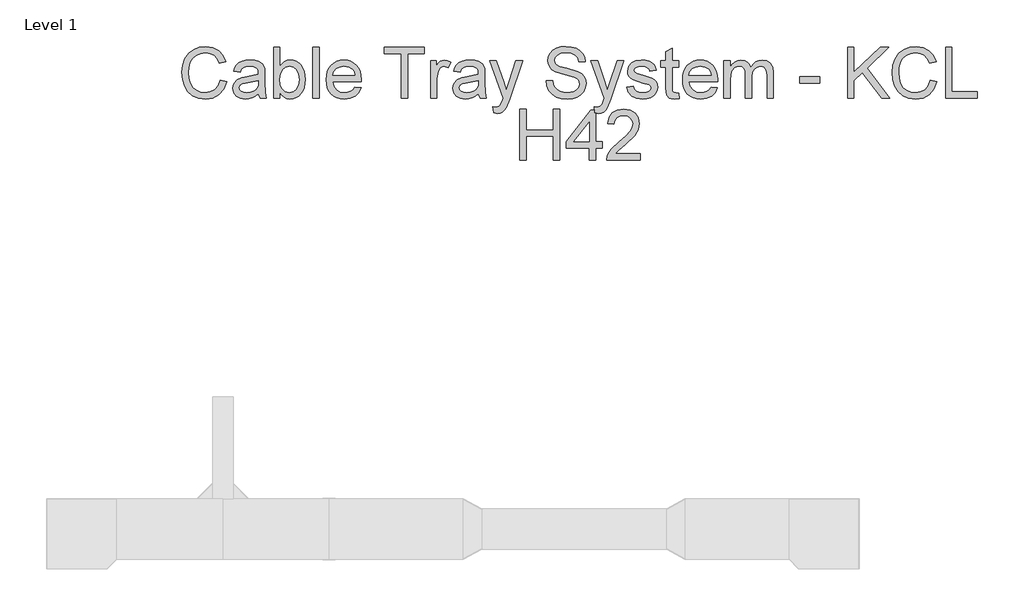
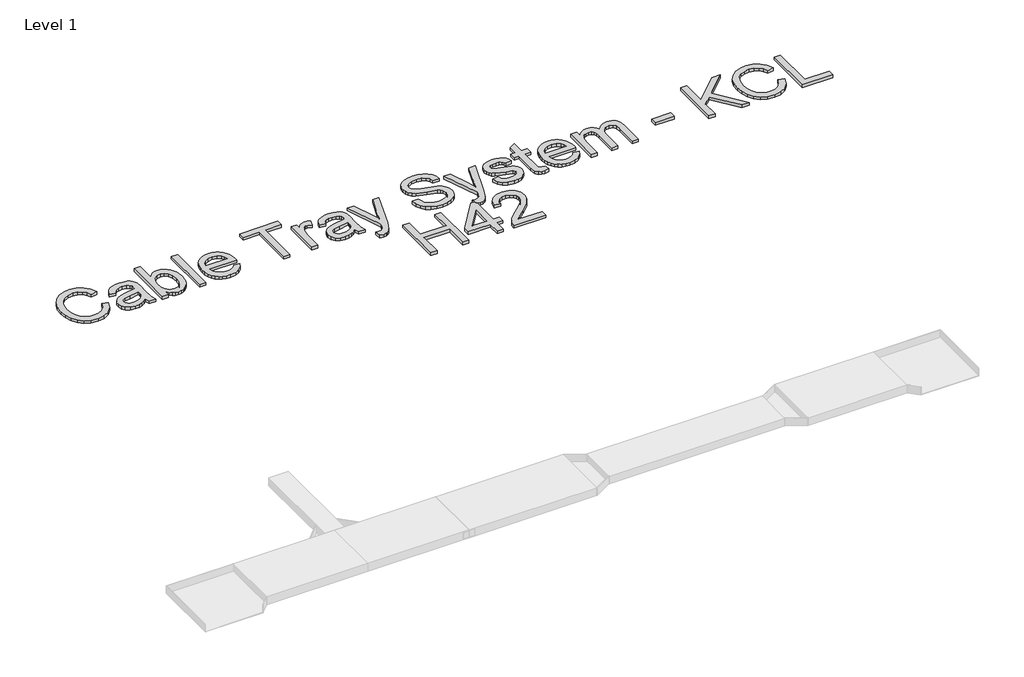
# One storey, part 10 of 32: 1 proxy.
"""IFC4 building model written with IfcOpenShell, lengths in millimetres."""

import ifcopenshell
import ifcopenshell.guid

model = None  # the IFC model being written
_history = None  # IfcOwnerHistory: only IFC2X3 demands one
_inside = {}  # id of a spatial element -> (the spatial element, [elements in it])
_under = {}  # id of a project, library or spatial element -> (it, [spatial elements below it])
_declared = {}  # id of a project -> (the project, [libraries it declares])
_typed = {}  # id of a type object -> (the type object, [elements of that type])
_made_of = {}  # id of a material, layer set ... -> (it, [elements and type objects made of it])


def new_model(schema):
    """Start an empty IFC model of exactly this schema.

    Asked for "IFC4X3", IfcOpenShell would pick the latest addendum, in which some entities
    have other attributes; the version numbers below select the first issue.
    IFC2X3 requires an IfcOwnerHistory on every rooted entity: one is made here for all.
    """
    global model, _history
    if schema == "IFC4X3":
        model = ifcopenshell.file(schema_version=(4, 3, 0, 0))
    else:
        model = ifcopenshell.file(schema=schema)
    _inside.clear()
    _under.clear()
    _declared.clear()
    _typed.clear()
    _made_of.clear()
    _history = None
    if model.schema == "IFC2X3":
        org = make("IfcOrganization", Name="unknown")
        user = make(
            "IfcPersonAndOrganization",
            ThePerson=make("IfcPerson", FamilyName="unknown"),
            TheOrganization=org,
        )
        app = make(
            "IfcApplication",
            ApplicationDeveloper=org,
            Version="unknown",
            ApplicationFullName="unknown",
            ApplicationIdentifier="unknown",
        )
        _history = make(
            "IfcOwnerHistory",
            OwningUser=user,
            OwningApplication=app,
            ChangeAction="ADDED",
            CreationDate=0,
        )
    return model


def make(cls, **values):
    """One entity of the class cls with the attributes given. An attribute that is None is left unset."""
    return model.create_entity(
        cls, **{name: value for name, value in values.items() if value is not None}
    )


def rooted(cls, **values):
    """An entity with a GlobalId (a new one), such as an element, a storey or a relation."""
    return make(cls, GlobalId=ifcopenshell.guid.new(), OwnerHistory=_history, **values)


def si_unit(unit_type, name, prefix=None):
    """IfcSIUnit, for example si_unit("LENGTHUNIT", "METRE", prefix="MILLI")."""
    return make("IfcSIUnit", UnitType=unit_type, Prefix=prefix, Name=name)


def assignment(units):
    """IfcUnitAssignment: the units of a project."""
    return None if units is None else make("IfcUnitAssignment", Units=units)


def point(xyz):
    """IfcCartesianPoint."""
    return None if xyz is None else make("IfcCartesianPoint", Coordinates=xyz)


def direction(xyz):
    """IfcDirection."""
    return None if xyz is None else make("IfcDirection", DirectionRatios=xyz)


def frame(location, z_axis=None, x_axis=None):
    """IfcAxis2Placement3D, a coordinate frame: its origin and axes. An axis left out is left unset."""
    return make(
        "IfcAxis2Placement3D",
        Location=point(location),
        Axis=direction(z_axis),
        RefDirection=direction(x_axis),
    )


def origin():
    """The frame at (0, 0, 0) with its axes left unset."""
    return frame((0.0, 0.0, 0.0))


def origin_with_axes():
    """The frame at (0, 0, 0) with the z axis (0, 0, 1) and the x axis (1, 0, 0) written out."""
    return frame((0.0, 0.0, 0.0), z_axis=(0.0, 0.0, 1.0), x_axis=(1.0, 0.0, 0.0))


def place(relative_to, where):
    """IfcLocalPlacement: puts the frame where relative to a parent placement (None: the world)."""
    return make(
        "IfcLocalPlacement", PlacementRelTo=relative_to, RelativePlacement=where
    )


def context(
    kind, dimensions, precision=None, world=None, true_north=None, identifier=None
):
    """IfcGeometricRepresentationContext, for example the 3D "Model" context."""
    return make(
        "IfcGeometricRepresentationContext",
        ContextIdentifier=identifier,
        ContextType=kind,
        CoordinateSpaceDimension=dimensions,
        Precision=precision,
        WorldCoordinateSystem=world,
        TrueNorth=true_north,
    )


def project(units=None, contexts=None):
    """IfcProject with its units and contexts."""
    return rooted(
        "IfcProject",
        Name="project",
        RepresentationContexts=contexts,
        UnitsInContext=assignment(units),
    )


def spatial(cls, under=None, at=None, **own):
    """A site, building, storey or space (cls), placed at a placement, below another one or the project."""
    s = rooted(cls, ObjectPlacement=at, **own)
    if under is not None:
        _under.setdefault(under.id(), (under, []))[1].append(s)
    return s


def polyline(points):
    """IfcPolyline through the points."""
    return make("IfcPolyline", Points=[point(p) for p in points])


def outline(outer, holes=None, kind="AREA"):
    """IfcArbitraryClosedProfileDef: a profile drawn as a closed curve; with holes, ...WithVoids."""
    if holes is None:
        return make("IfcArbitraryClosedProfileDef", ProfileType=kind, OuterCurve=outer)
    return make(
        "IfcArbitraryProfileDefWithVoids",
        ProfileType=kind,
        OuterCurve=outer,
        InnerCurves=holes,
    )


def extrude(swept, where, along, depth):
    """IfcExtrudedAreaSolid: the profile swept, set in the frame where, extruded along a direction by depth."""
    return make(
        "IfcExtrudedAreaSolid",
        SweptArea=swept,
        Position=where,
        ExtrudedDirection=direction(along),
        Depth=depth,
    )


def shape(context_of_items, identifier, shape_type, items):
    """IfcShapeRepresentation: the items that make up one representation, for example the "Body"."""
    return make(
        "IfcShapeRepresentation",
        ContextOfItems=context_of_items,
        RepresentationIdentifier=identifier,
        RepresentationType=shape_type,
        Items=items,
    )


def made_of(thing, what):
    """Note that an element or type object is made of a material, layer set ...; save() writes the relation."""
    if what is not None:
        _made_of.setdefault(what.id(), (what, []))[1].append(thing)
    return thing


def element(
    cls,
    number,
    at=None,
    inside=None,
    cuts=None,
    type_object=None,
    material=None,
    context=None,
    identifier="Body",
    shape_type=None,
    held_by="IfcProductDefinitionShape",
    body=None,
    shapes=None,
    **own,
):
    """One element of the class cls, such as IfcWall. Its Tag is "e" and its number.

    at: its placement. inside: the storey or other place that contains it. cuts: it is an
    opening in that element (IfcRelVoidsElement). A single representation is given by context,
    identifier, shape_type and body (its items); several are given by shapes. held_by: the class
    of the entity that holds the representations. save() writes the other relations.
    """
    e = rooted(cls, Tag="e%d" % number, ObjectPlacement=at, **own)
    if body is not None:
        shapes = [shape(context, identifier, shape_type, body)]
    if shapes is not None:
        e.Representation = make(held_by, Representations=shapes)
    if inside is not None:
        _inside.setdefault(inside.id(), (inside, []))[1].append(e)
    if cuts is not None:
        rooted(
            "IfcRelVoidsElement", RelatingBuildingElement=cuts, RelatedOpeningElement=e
        )
    if type_object is not None:
        _typed.setdefault(type_object.id(), (type_object, []))[1].append(e)
    return made_of(e, material)


def aggregate(whole, parts):
    """IfcRelAggregates: a whole, such as a stair, and the parts it consists of."""
    return rooted("IfcRelAggregates", RelatingObject=whole, RelatedObjects=parts)


def save(model, path):
    """Write the relations noted so far, then the file.

    IfcRelAggregates (storeys below a building ...), IfcRelContainedInSpatialStructure (elements
    in a storey), IfcRelDefinesByType, IfcRelAssociatesMaterial and IfcRelDeclares: one each for
    every whole, place, type object, material and project.
    """
    for whole, parts in _under.values():
        aggregate(whole, parts)
    for where, things in _inside.values():
        rooted(
            "IfcRelContainedInSpatialStructure",
            RelatedElements=things,
            RelatingStructure=where,
        )
    for kind, things in _typed.values():
        rooted("IfcRelDefinesByType", RelatedObjects=things, RelatingType=kind)
    for what, things in _made_of.values():
        rooted("IfcRelAssociatesMaterial", RelatedObjects=things, RelatingMaterial=what)
    for by, libraries in _declared.values():
        rooted("IfcRelDeclares", RelatingContext=by, RelatedDefinitions=libraries)
    model.write(path)


model = new_model("IFC4")

# Units and contexts
model_context = context("Model", 3, world=origin())
ifc_project = project(units=[si_unit("LENGTHUNIT", "METRE", prefix="MILLI")], contexts=[model_context])

# Site, building, storey
site = spatial("IfcSite", under=ifc_project)
building = spatial("IfcBuilding", under=site)
storey = spatial("IfcBuildingStorey", under=building, Name="Level 1", Elevation=0.0)

# Proxy
placement = place(None, origin())
element("IfcBuildingElementProxy", 1, Name="250mm Arial 3", ObjectType="250mm Arial 3", at=placement, inside=storey, context=model_context, shape_type="SweptSolid", body=[
    extrude(outline(polyline([(-19338.409324, 48792.4106539), (-19307.0167271, 48784.31725), (-19321.5020807, 48747.7359841), (-19344.2341223, 48721.01089), (-19374.0938776, 48704.6631338), (-19409.9623721, 48699.2138818), (-19446.3750254, 48703.3372258), (-19475.2920831, 48715.7072579), (-19497.4569733, 48735.8947824), (-19513.6131242, 48763.4706036), (-19523.4769602, 48795.8902044), (-19526.7649056, 48830.6090677), (-19523.0477646, 48867.2286547), (-19511.8963416, 48898.8511778), (-19493.8931165, 48924.472626), (-19469.620569, 48943.0889878), (-19440.8338029, 48954.4243517), (-19409.2879218, 48958.2028064), (-19374.8679626, 48953.3130415), (-19346.4107574, 48938.643747), (-19324.8053544, 48915.0992993), (-19310.9408017, 48883.584075), (-19342.3333987, 48876.1038078), (-19353.2165744, 48898.9967978), (-19368.0851383, 48914.7007605), (-19387.1230316, 48923.7828472), (-19410.5141951, 48926.8102095), (-19437.4768797, 48923.4532863), (-19459.6264415, 48913.3825166), (-19476.4340501, 48897.6555613), (-19487.3708753, 48877.3300811), (-19493.3719503, 48854.3527848), (-19495.3723087, 48830.6703814), (-19493.0040683, 48801.6690174), (-19485.8993473, 48776.5917281), (-19473.7898983, 48756.3965394), (-19456.407474, 48742.0414774), (-19435.5684918, 48733.4652284), (-19413.0893691, 48730.6064787), (-19386.8854411, 48734.4998965), (-19365.0501119, 48746.1801498), (-19348.5644, 48765.5246114), (-19338.409324, 48792.4106539)])), origin_with_axes(), (0.0, 0.0, 1.0), 15.0),
    extrude(outline(polyline([(-19150.0537425, 48726.6824041), (-19165.052598, 48713.8218627), (-19180.4959776, 48705.406562), (-19196.7364349, 48700.7620518), (-19214.1265233, 48699.2138818), (-19240.3611081, 48702.938687), (-19259.7132339, 48714.1131026), (-19271.6464061, 48731.0816596), (-19275.6241302, 48752.1888891), (-19274.1219454, 48765.2027147), (-19269.6153909, 48777.0209238), (-19253.827122, 48795.0471415), (-19231.8461728, 48805.3478374), (-19204.6842188, 48810.0689897), (-19150.2376835, 48820.8601949), (-19150.0537425, 48827.8499528), (-19152.2150492, 48841.8601254), (-19158.6989694, 48851.0265185), (-19173.1996514, 48857.8323354), (-19193.4025043, 48860.100941), (-19212.1031724, 48858.591092), (-19225.1629832, 48854.0615449), (-19234.0687932, 48845.6845653), (-19240.3074587, 48832.6324187), (-19271.7000556, 48836.5564933), (-19266.2508035, 48853.7243198), (-19258.1190786, 48867.2133262), (-19246.5461242, 48877.5293505), (-19230.7731836, 48885.1782303), (-19211.4823715, 48889.914711), (-19189.3558023, 48891.4935379), (-19168.1336097, 48890.098652), (-19151.3106727, 48885.9139943), (-19138.626408, 48879.6216794), (-19129.8202328, 48871.9038217), (-19120.1939872, 48850.5973228), (-19118.6611456, 48823.1288005), (-19118.6611456, 48784.0719953), (-19117.0669903, 48729.5334895), (-19110.8129964, 48703.1379564), (-19142.2055933, 48703.1379564), (-19150.0537425, 48726.6824041)]), holes=[polyline([(-19150.0537425, 48789.4675979), (-19200.6988305, 48779.8413524), (-19227.7075003, 48774.7523181), (-19239.9395767, 48766.4749732), (-19244.2315333, 48754.3961811), (-19241.8939498, 48745.0611754), (-19234.8811992, 48737.4122956), (-19223.3465658, 48732.3079329), (-19207.4433338, 48730.6064787), (-19190.5820756, 48732.4842097), (-19175.6828548, 48738.1174028), (-19163.6040627, 48746.4177403), (-19155.2040904, 48756.2969047), (-19151.4792852, 48766.4749732), (-19150.2376835, 48780.5771164), (-19150.0537425, 48789.4675979)])]), origin_with_axes(), (0.0, 0.0, 1.0), 15.0),
    extrude(outline(polyline([(-19044.1037279, 48703.1379564), (-19075.4963248, 48703.1379564), (-19075.4963248, 48954.2787318), (-19044.1037279, 48954.2787318), (-19044.1037279, 48861.1432733), (-19033.7800394, 48874.4215141), (-19022.1227787, 48883.9059718), (-19009.1319457, 48889.5966464), (-18994.8075405, 48891.4935379), (-18978.6360612, 48889.7844195), (-18963.35363, 48884.6570642), (-18949.8339666, 48876.4333687), (-18938.9507909, 48865.4352299), (-18923.9595996, 48835.5448178), (-18918.5333402, 48798.1128248), (-18924.1512049, 48756.2049342), (-18931.1735356, 48739.2746982), (-18941.0047988, 48725.0269351), (-18952.8057634, 48713.7337243), (-18965.7371987, 48705.6671451), (-18979.7991048, 48700.8271976), (-18994.9914815, 48699.2138818), (-19009.7872355, 48701.2947143), (-19022.9045279, 48707.5372119), (-19034.3433587, 48717.9413746), (-19044.1037279, 48732.5072023), (-19044.1037279, 48703.1379564)]), holes=[polyline([(-19044.1037279, 48796.6412968), (-19041.9577496, 48770.4603615), (-19035.5198147, 48752.7407121), (-19019.0724238, 48736.140037), (-18997.6892828, 48730.6064787), (-18979.5710946, 48734.6838375), (-18964.089394, 48746.9159138), (-18953.4668013, 48767.2260656), (-18949.9259371, 48795.5376509), (-18953.3211814, 48824.2631033), (-18963.5069141, 48844.3433289), (-18978.5057696, 48856.161538), (-18996.3403822, 48860.100941), (-19014.4585705, 48856.0235822), (-19029.9402711, 48843.7915059), (-19040.5628637, 48823.8492361), (-19044.1037279, 48796.6412968)])]), origin_with_axes(), (0.0, 0.0, 1.0), 15.0),
    extrude(outline(polyline([(-18883.2166687, 48703.1379564), (-18883.2166687, 48954.2787318), (-18851.8240718, 48954.2787318), (-18851.8240718, 48703.1379564), (-18883.2166687, 48703.1379564)])), origin_with_axes(), (0.0, 0.0, 1.0), 15.0),
    extrude(outline(polyline([(-18675.6085961, 48758.075001), (-18644.8291358, 48754.1509264), (-18655.9192451, 48730.9590323), (-18673.6159019, 48713.6225933), (-18697.5205674, 48702.8160597), (-18727.2347027, 48699.2138818), (-18746.7132879, 48700.7678), (-18764.0688875, 48705.4295547), (-18779.3015014, 48713.1991458), (-18792.4111295, 48724.0765733), (-18802.953248, 48737.759101), (-18810.4833325, 48753.9439928), (-18815.0013833, 48772.6312485), (-18816.5074002, 48793.8208682), (-18814.9860549, 48815.7290074), (-18810.4220189, 48835.0389801), (-18802.8152922, 48851.7507861), (-18792.1658749, 48865.8644256), (-18779.0907356, 48877.0771622), (-18764.2068432, 48885.0862598), (-18747.5141977, 48889.8917184), (-18729.012799, 48891.4935379), (-18711.1072926, 48889.8955505), (-18694.9147366, 48885.1015883), (-18680.4351312, 48877.1116512), (-18667.6684763, 48865.9257393), (-18657.2470692, 48851.8427566), (-18649.8032069, 48835.1616074), (-18645.3368896, 48815.8822916), (-18643.8481172, 48794.0048092), (-18644.0320581, 48785.5435233), (-18785.1148033, 48785.5435233), (-18779.6808797, 48762.0450609), (-18767.0579287, 48744.7699355), (-18748.8401057, 48734.1473429), (-18726.6215661, 48730.6064787), (-18709.9135921, 48732.2466193), (-18695.8421058, 48737.1670409), (-18684.4071071, 48745.6743121), (-18675.6085961, 48758.075001)]), holes=[polyline([(-18785.1148033, 48816.9361202), (-18675.2407141, 48816.9361202), (-18679.4866854, 48833.5214669), (-18687.8100156, 48845.3856612), (-18706.1121448, 48856.4221211), (-18729.1354264, 48860.100941), (-18750.2963053, 48857.1655493), (-18767.7936927, 48848.359374), (-18779.9567912, 48834.632777), (-18785.1148033, 48816.9361202)])]), origin_with_axes(), (0.0, 0.0, 1.0), 15.0),
    extrude(outline(polyline([(-18447.6443864, 48703.1379564), (-18447.6443864, 48922.8861348), (-18530.0499533, 48922.8861348), (-18530.0499533, 48954.2787318), (-18333.8462225, 48954.2787318), (-18333.8462225, 48922.8861348), (-18416.2517895, 48922.8861348), (-18416.2517895, 48703.1379564), (-18447.6443864, 48703.1379564)])), origin_with_axes(), (0.0, 0.0, 1.0), 15.0),
    extrude(outline(polyline([(-18302.4536256, 48703.1379564), (-18302.4536256, 48887.5694633), (-18274.9851033, 48887.5694633), (-18274.9851033, 48860.284882), (-18264.8376916, 48876.1038078), (-18255.4873576, 48885.423485), (-18235.8669845, 48891.4935379), (-18220.2319997, 48889.0716481), (-18204.3517602, 48881.8059787), (-18214.8363971, 48853.6630061), (-18236.9093168, 48860.100941), (-18246.2826435, 48858.5527709), (-18254.6596231, 48853.9082608), (-18265.9719944, 48836.7404343), (-18271.0610287, 48800.0748621), (-18271.0610287, 48703.1379564), (-18302.4536256, 48703.1379564)])), origin_with_axes(), (0.0, 0.0, 1.0), 15.0),
    extrude(outline(polyline([(-18067.0091487, 48726.6824041), (-18082.0080042, 48713.8218627), (-18097.4513838, 48705.406562), (-18113.6918411, 48700.7620518), (-18131.0819295, 48699.2138818), (-18157.3165143, 48702.938687), (-18176.6686401, 48714.1131026), (-18188.6018123, 48731.0816596), (-18192.5795364, 48752.1888891), (-18191.0773516, 48765.2027147), (-18186.5707971, 48777.0209238), (-18170.7825282, 48795.0471415), (-18148.801579, 48805.3478374), (-18121.639625, 48810.0689897), (-18067.1930897, 48820.8601949), (-18067.0091487, 48827.8499528), (-18069.1704554, 48841.8601254), (-18075.6543756, 48851.0265185), (-18090.1550576, 48857.8323354), (-18110.3579105, 48860.100941), (-18129.0585786, 48858.591092), (-18142.1183894, 48854.0615449), (-18151.0241994, 48845.6845653), (-18157.2628649, 48832.6324187), (-18188.6554618, 48836.5564933), (-18183.2062097, 48853.7243198), (-18175.0744848, 48867.2133262), (-18163.5015304, 48877.5293505), (-18147.7285898, 48885.1782303), (-18128.4377777, 48889.914711), (-18106.3112085, 48891.4935379), (-18085.0890159, 48890.098652), (-18068.2660789, 48885.9139943), (-18055.5818142, 48879.6216794), (-18046.775639, 48871.9038217), (-18037.1493934, 48850.5973228), (-18035.6165518, 48823.1288005), (-18035.6165518, 48784.0719953), (-18034.0223965, 48729.5334895), (-18027.7684026, 48703.1379564), (-18059.1609995, 48703.1379564), (-18067.0091487, 48726.6824041)]), holes=[polyline([(-18067.0091487, 48789.4675979), (-18117.6542367, 48779.8413524), (-18144.6629065, 48774.7523181), (-18156.8949829, 48766.4749732), (-18161.1869395, 48754.3961811), (-18158.849356, 48745.0611754), (-18151.8366054, 48737.4122956), (-18140.301972, 48732.3079329), (-18124.39874, 48730.6064787), (-18107.5374818, 48732.4842097), (-18092.638261, 48738.1174028), (-18080.5594689, 48746.4177403), (-18072.1594966, 48756.2969047), (-18068.4346914, 48766.4749732), (-18067.1930897, 48780.5771164), (-18067.0091487, 48789.4675979)])]), origin_with_axes(), (0.0, 0.0, 1.0), 15.0),
    extrude(outline(polyline([(-17992.451731, 48632.5046133), (-17996.3758056, 48662.7322506), (-17980.4342525, 48659.9731356), (-17965.5350317, 48663.4373577), (-17956.3992955, 48673.0942601), (-17947.8153823, 48696.2095122), (-17945.3628356, 48703.8124067), (-18012.0721041, 48887.5694633), (-17978.9627245, 48887.5694633), (-17943.5847393, 48785.1756413), (-17931.2606925, 48744.2181125), (-17918.9366457, 48780.3931754), (-17882.5776418, 48887.5694633), (-17849.7135169, 48887.5694633), (-17913.9089251, 48698.7233725), (-17930.5862422, 48657.7658437), (-17939.1241701, 48644.6907044), (-17948.7964009, 48635.6316103), (-17960.0321302, 48630.3433066), (-17973.2605536, 48628.5805387), (-17992.451731, 48632.5046133)])), origin_with_axes(), (0.0, 0.0, 1.0), 15.0),
    extrude(outline(polyline([(-17733.4628064, 48789.4675979), (-17702.0702095, 48789.4675979), (-17698.4680316, 48772.0468526), (-17691.9534546, 48758.0443442), (-17681.7907145, 48746.9312422), (-17667.2440473, 48738.1787164), (-17649.4630842, 48732.4995381), (-17629.5974564, 48730.6064787), (-17612.1077333, 48732.0396856), (-17596.7946452, 48736.3393065), (-17584.3862921, 48743.1451234), (-17575.6107737, 48752.0969186), (-17570.3914478, 48762.3746218), (-17568.6516726, 48773.1581628), (-17573.8633342, 48792.7478791), (-17581.8034539, 48800.4963936), (-17595.2004899, 48807.0033064), (-17640.9098278, 48818.990128), (-17690.1140447, 48834.4718287), (-17705.7413652, 48845.0331076), (-17716.8161461, 48857.8323354), (-17723.4150294, 48872.5936004), (-17725.6146572, 48889.0409913), (-17722.8938633, 48907.4274268), (-17714.7314815, 48924.5722607), (-17701.3421097, 48939.1035995), (-17682.9403457, 48949.64955), (-17660.8520976, 48956.0644923), (-17636.4032734, 48958.2028064), (-17609.9157697, 48955.9648576), (-17586.739204, 48949.2510112), (-17567.7013108, 48938.1992229), (-17553.6298244, 48922.9474485), (-17544.7240145, 48904.4460498), (-17541.1831503, 48883.6453887), (-17572.5757472, 48883.6453887), (-17578.3392318, 48902.3767136), (-17590.3567103, 48915.8963769), (-17609.1340205, 48924.0817513), (-17635.177, 48926.8102095), (-17661.8331163, 48924.1124082), (-17680.1199171, 48916.0190043), (-17690.6965245, 48904.1088247), (-17694.2220603, 48889.9606963), (-17691.7235284, 48877.8972325), (-17684.2279327, 48868.1943449), (-17666.5082833, 48859.5184612), (-17632.9697081, 48850.6586365), (-17577.4195268, 48834.9010243), (-17559.5236006, 48823.5120109), (-17547.0386054, 48809.455853), (-17539.7039581, 48792.8858348), (-17537.2590757, 48773.9552405), (-17540.0718401, 48754.6031147), (-17548.5101333, 48736.4006201), (-17562.2290661, 48720.7349785), (-17580.8837489, 48708.9934115), (-17603.3168864, 48701.6587642), (-17628.3711831, 48699.2138818), (-17659.1276508, 48701.8503694), (-17684.4425306, 48709.7598323), (-17704.6070624, 48722.9729273), (-17719.9124863, 48741.5203112), (-17729.7380012, 48764.1143971), (-17733.4628064, 48789.4675979)])), origin_with_axes(), (0.0, 0.0, 1.0), 15.0),
    extrude(outline(polyline([(-17494.0942549, 48632.5046133), (-17498.0183295, 48662.7322506), (-17482.0767764, 48659.9731356), (-17467.1775556, 48663.4373577), (-17458.0418194, 48673.0942601), (-17449.4579061, 48696.2095122), (-17447.0053595, 48703.8124067), (-17513.714628, 48887.5694633), (-17480.6052484, 48887.5694633), (-17445.2272632, 48785.1756413), (-17432.9032164, 48744.2181125), (-17420.5791695, 48780.3931754), (-17384.2201657, 48887.5694633), (-17351.3560408, 48887.5694633), (-17415.5514489, 48698.7233725), (-17432.228766, 48657.7658437), (-17440.766694, 48644.6907044), (-17450.4389248, 48635.6316103), (-17461.6746541, 48630.3433066), (-17474.9030775, 48628.5805387), (-17494.0942549, 48632.5046133)])), origin_with_axes(), (0.0, 0.0, 1.0), 15.0),
    extrude(outline(polyline([(-17337.1312703, 48758.075001), (-17305.7386734, 48761.9990756), (-17300.7875948, 48748.5713828), (-17291.2073346, 48738.6998826), (-17276.9365788, 48732.6298297), (-17257.914014, 48730.6064787), (-17239.1213754, 48732.4612171), (-17225.9082804, 48738.0254323), (-17218.090788, 48746.0881793), (-17215.4849572, 48755.4385134), (-17218.1061164, 48763.4399468), (-17225.9695941, 48769.5406565), (-17258.281896, 48778.4924517), (-17305.5547324, 48793.851525), (-17317.5185614, 48801.5693827), (-17326.1867809, 48811.7857723), (-17331.452092, 48823.8492361), (-17333.2071957, 48837.1083163), (-17327.5663384, 48860.4994798), (-17312.1766083, 48878.3724134), (-17292.21901, 48887.6614338), (-17265.2103402, 48891.4935379), (-17244.7775611, 48889.9530321), (-17227.0119264, 48885.3315145), (-17212.7258422, 48878.0811735), (-17202.7317147, 48868.6541974), (-17196.1098388, 48856.3531432), (-17191.9405095, 48840.4805679), (-17223.3331064, 48836.5564933), (-17227.2955021, 48846.4356577), (-17235.1359871, 48853.8776039), (-17246.9312036, 48858.5451067), (-17262.7577936, 48860.100941), (-17280.7840114, 48858.6140846), (-17292.8014899, 48854.1535154), (-17299.5613215, 48847.7155805), (-17301.8145987, 48840.2966269), (-17298.0744651, 48831.1608907), (-17286.3635549, 48824.2324465), (-17259.3242283, 48817.5492569), (-17213.2470084, 48802.7726634), (-17201.0762457, 48795.7062634), (-17191.848539, 48786.0340326), (-17186.031405, 48773.7253142), (-17184.0923603, 48758.7494513), (-17186.3686301, 48743.2677507), (-17193.1974397, 48728.7057551), (-17204.3182058, 48716.2054314), (-17219.4703455, 48706.9087468), (-17237.7724748, 48701.137598), (-17258.3432096, 48699.2138818), (-17289.9963897, 48702.9233586), (-17313.0963133, 48714.0517889), (-17328.5167002, 48732.4765455), (-17337.1312703, 48758.075001)])), origin_with_axes(), (0.0, 0.0, 1.0), 15.0),
    extrude(outline(polyline([(-17082.0664203, 48729.3188917), (-17078.1423457, 48702.2182514), (-17101.6254797, 48699.2138818), (-17116.6933131, 48700.5167972), (-17127.9290424, 48704.4255434), (-17141.0501669, 48718.0984909), (-17144.8516141, 48753.7217307), (-17144.8516141, 48856.1768664), (-17168.3960618, 48856.1768664), (-17168.3960618, 48887.5694633), (-17144.8516141, 48887.5694633), (-17144.8516141, 48932.3897531), (-17113.4590172, 48950.8451665), (-17113.4590172, 48887.5694633), (-17082.0664203, 48887.5694633), (-17082.0664203, 48856.1768664), (-17113.4590172, 48856.1768664), (-17113.4590172, 48754.6414357), (-17111.8035482, 48738.4546279), (-17106.4386025, 48732.7218002), (-17095.7393678, 48730.6064787), (-17082.0664203, 48729.3188917)])), origin_with_axes(), (0.0, 0.0, 1.0), 15.0),
    extrude(outline(polyline([(-16921.5472431, 48758.075001), (-16890.7677828, 48754.1509264), (-16901.8578921, 48730.9590323), (-16919.5545489, 48713.6225933), (-16943.4592144, 48702.8160597), (-16973.1733497, 48699.2138818), (-16992.6519349, 48700.7678), (-17010.0075345, 48705.4295547), (-17025.2401484, 48713.1991458), (-17038.3497765, 48724.0765733), (-17048.891895, 48737.759101), (-17056.4219795, 48753.9439928), (-17060.9400303, 48772.6312485), (-17062.4460472, 48793.8208682), (-17060.9247019, 48815.7290074), (-17056.3606659, 48835.0389801), (-17048.7539392, 48851.7507861), (-17038.1045219, 48865.8644256), (-17025.0293826, 48877.0771622), (-17010.1454902, 48885.0862598), (-16993.4528447, 48889.8917184), (-16974.951446, 48891.4935379), (-16957.0459395, 48889.8955505), (-16940.8533836, 48885.1015883), (-16926.3737782, 48877.1116512), (-16913.6071233, 48865.9257393), (-16903.1857162, 48851.8427566), (-16895.7418539, 48835.1616074), (-16891.2755366, 48815.8822916), (-16889.7867641, 48794.0048092), (-16889.9707051, 48785.5435233), (-17031.0534503, 48785.5435233), (-17025.6195267, 48762.0450609), (-17012.9965757, 48744.7699355), (-16994.7787527, 48734.1473429), (-16972.5602131, 48730.6064787), (-16955.8522391, 48732.2466193), (-16941.7807528, 48737.1670409), (-16930.3457541, 48745.6743121), (-16921.5472431, 48758.075001)]), holes=[polyline([(-17031.0534503, 48816.9361202), (-16921.1793611, 48816.9361202), (-16925.4253324, 48833.5214669), (-16933.7486626, 48845.3856612), (-16952.0507918, 48856.4221211), (-16975.0740734, 48860.100941), (-16996.2349523, 48857.1655493), (-17013.7323397, 48848.359374), (-17025.8954382, 48834.632777), (-17031.0534503, 48816.9361202)])]), origin_with_axes(), (0.0, 0.0, 1.0), 15.0),
    extrude(outline(polyline([(-16858.3941672, 48703.1379564), (-16858.3941672, 48887.5694633), (-16827.0015703, 48887.5694633), (-16827.0015703, 48857.2191987), (-16817.5592658, 48871.1603935), (-16805.4191599, 48882.0818902), (-16790.99512, 48889.140626), (-16774.7010133, 48891.4935379), (-16757.241947, 48889.0946407), (-16743.2471027, 48881.8979492), (-16732.7931227, 48870.3786442), (-16725.956649, 48855.0119067), (-16714.5139861, 48870.9726204), (-16701.4618395, 48882.3731301), (-16686.8002091, 48889.213436), (-16670.529095, 48891.4935379), (-16646.9309979, 48887.6997549), (-16629.4795957, 48876.3184056), (-16618.6960547, 48857.0429219), (-16615.1015411, 48829.5667354), (-16615.1015411, 48703.1379564), (-16646.494138, 48703.1379564), (-16646.494138, 48816.0777289), (-16649.4065371, 48842.2893211), (-16659.9524877, 48855.1958477), (-16677.8867349, 48860.100941), (-16694.893613, 48856.9586156), (-16708.7581657, 48847.5316395), (-16717.9782082, 48831.1762191), (-16721.0515557, 48807.248561), (-16721.0515557, 48703.1379564), (-16752.4441526, 48703.1379564), (-16752.4441526, 48819.5726079), (-16754.26057, 48837.3229141), (-16759.709822, 48849.9841861), (-16769.2977465, 48857.5717523), (-16783.5301812, 48860.100941), (-16795.6243018, 48858.4148152), (-16806.7680606, 48853.3564378), (-16815.9651104, 48845.048436), (-16822.2191044, 48833.6134374), (-16827.0015703, 48796.1507875), (-16827.0015703, 48703.1379564), (-16858.3941672, 48703.1379564)])), origin_with_axes(), (0.0, 0.0, 1.0), 15.0),
    extrude(outline(polyline([(-16485.6070788, 48777.6953741), (-16485.6070788, 48809.087971), (-16387.5052134, 48809.087971), (-16387.5052134, 48777.6953741), (-16485.6070788, 48777.6953741)])), origin_with_axes(), (0.0, 0.0, 1.0), 15.0),
    extrude(outline(polyline([(-16250.1626019, 48703.1379564), (-16250.1626019, 48954.2787318), (-16218.7700049, 48954.2787318), (-16218.7700049, 48831.3448317), (-16090.0113066, 48954.2787318), (-16046.1107219, 48954.2787318), (-16154.2067148, 48851.0265185), (-16042.1866473, 48703.1379564), (-16080.5690021, 48703.1379564), (-16176.4635755, 48829.8119901), (-16218.7700049, 48789.4675979), (-16218.7700049, 48703.1379564), (-16250.1626019, 48703.1379564)])), origin_with_axes(), (0.0, 0.0, 1.0), 15.0),
    extrude(outline(polyline([(-15842.0588419, 48792.4106539), (-15810.666245, 48784.31725), (-15825.1515985, 48747.7359841), (-15847.8836401, 48721.01089), (-15877.7433954, 48704.6631338), (-15913.6118899, 48699.2138818), (-15950.0245433, 48703.3372258), (-15978.9416009, 48715.7072579), (-16001.1064911, 48735.8947824), (-16017.2626421, 48763.4706036), (-16027.1264781, 48795.8902044), (-16030.4144234, 48830.6090677), (-16026.6972824, 48867.2286547), (-16015.5458594, 48898.8511778), (-15997.5426343, 48924.472626), (-15973.2700868, 48943.0889878), (-15944.4833207, 48954.4243517), (-15912.9374396, 48958.2028064), (-15878.5174804, 48953.3130415), (-15850.0602753, 48938.643747), (-15828.4548723, 48915.0992993), (-15814.5903196, 48883.584075), (-15845.9829165, 48876.1038078), (-15856.8660922, 48898.9967978), (-15871.7346562, 48914.7007605), (-15890.7725494, 48923.7828472), (-15914.1637129, 48926.8102095), (-15941.1263975, 48923.4532863), (-15963.2759593, 48913.3825166), (-15980.083568, 48897.6555613), (-15991.0203931, 48877.3300811), (-15997.0214681, 48854.3527848), (-15999.0218265, 48830.6703814), (-15996.6535861, 48801.6690174), (-15989.5488651, 48776.5917281), (-15977.4394161, 48756.3965394), (-15960.0569918, 48742.0414774), (-15939.2180097, 48733.4652284), (-15916.7388869, 48730.6064787), (-15890.534959, 48734.4998965), (-15868.6996297, 48746.1801498), (-15852.2139178, 48765.5246114), (-15842.0588419, 48792.4106539)])), origin_with_axes(), (0.0, 0.0, 1.0), 15.0),
    extrude(outline(polyline([(-15767.5014242, 48703.1379564), (-15767.5014242, 48954.2787318), (-15736.1088273, 48954.2787318), (-15736.1088273, 48734.5305533), (-15610.5384396, 48734.5305533), (-15610.5384396, 48703.1379564), (-15767.5014242, 48703.1379564)])), origin_with_axes(), (0.0, 0.0, 1.0), 15.0),
    extrude(outline(polyline([(-17862.9572687, 48398.2009118), (-17862.9572687, 48649.3416872), (-17831.5646718, 48649.3416872), (-17831.5646718, 48547.3157472), (-17698.1461349, 48547.3157472), (-17698.1461349, 48649.3416872), (-17666.753538, 48649.3416872), (-17666.753538, 48398.2009118), (-17698.1461349, 48398.2009118), (-17698.1461349, 48515.9231502), (-17831.5646718, 48515.9231502), (-17831.5646718, 48398.2009118), (-17862.9572687, 48398.2009118)])), origin_with_axes(), (0.0, 0.0, 1.0), 15.0),
    extrude(outline(polyline([(-17521.5627772, 48398.2009118), (-17521.5627772, 48457.062031), (-17635.360941, 48457.062031), (-17635.360941, 48488.4546279), (-17513.714628, 48645.4176125), (-17490.1701803, 48645.4176125), (-17490.1701803, 48488.4546279), (-17458.7775834, 48488.4546279), (-17458.7775834, 48457.062031), (-17490.1701803, 48457.062031), (-17490.1701803, 48398.2009118), (-17521.5627772, 48398.2009118)]), holes=[polyline([(-17521.5627772, 48488.4546279), (-17521.5627772, 48585.4528473), (-17596.7333315, 48488.4546279), (-17521.5627772, 48488.4546279)])]), origin_with_axes(), (0.0, 0.0, 1.0), 15.0),
    extrude(outline(polyline([(-17270.4220018, 48429.5935087), (-17270.4220018, 48398.2009118), (-17435.2331357, 48398.2009118), (-17431.860884, 48419.8446358), (-17424.1200337, 48436.7595434), (-17412.792334, 48453.1686132), (-17373.4902741, 48489.5582739), (-17339.6144738, 48519.6479554), (-17319.2889935, 48541.8588309), (-17309.1262534, 48559.8850487), (-17305.7386734, 48577.4207571), (-17308.9346482, 48593.1400482), (-17318.5225727, 48606.2075232), (-17333.2608451, 48615.0136985), (-17351.9078638, 48617.9490902), (-17371.4899158, 48615.0826764), (-17386.7033691, 48606.4834347), (-17396.5212199, 48592.8258156), (-17399.9164641, 48574.7842695), (-17431.309061, 48578.7083441), (-17423.6985023, 48609.0739371), (-17407.2434472, 48631.2541557), (-17382.8022871, 48644.8198043), (-17351.2334134, 48649.3416872), (-17319.4346135, 48644.3139666), (-17295.0394387, 48629.2308048), (-17279.519417, 48606.6980325), (-17274.3460764, 48579.3214807), (-17279.92562, 48549.553696), (-17298.473004, 48518.7742357), (-17343.4465779, 48475.7626991), (-17379.5603271, 48445.5657187), (-17393.7237839, 48429.5935087), (-17270.4220018, 48429.5935087)])), origin_with_axes(), (0.0, 0.0, 1.0), 15.0),
])

save(model, "model.ifc")
